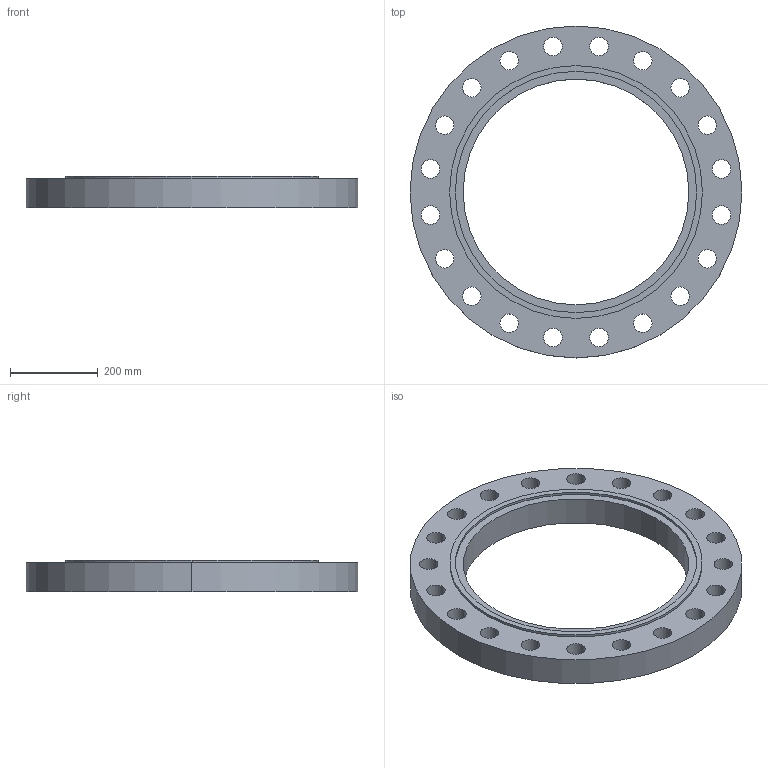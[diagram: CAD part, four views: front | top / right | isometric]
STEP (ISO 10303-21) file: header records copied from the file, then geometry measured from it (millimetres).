
FILE_DESCRIPTION (( 'STEP AP214' ), '1' );
FILE_NAME ('PN40 DN500 Type 01 - Type C Face.STEP', '2018-12-29T01:38:54', ( '' ), ( '' ), 'SwSTEP 2.0', 'SolidWorks 2019', '' );
FILE_SCHEMA (( 'AUTOMOTIVE_DESIGN' ));
Length unit declared in the file: millimetre
Products named in the file (1): PN40 DN500 Type 01 - Type C Face
Bounding box: 755 x 755 x 72 mm (x, y, z)
Volume: 14283569 mm3; surface area: 885704.9 mm2
Topology: 1 solids, 1 shells, 52 faces, 144 edges, 96 vertices
Faces by surface type: cylinder 48, plane 4
Entity records: 1842 total; most frequent: DIRECTION 346, CARTESIAN_POINT 293, ORIENTED_EDGE 288, AXIS2_PLACEMENT_3D 149, EDGE_CURVE 144, CIRCLE 96, EDGE_LOOP 96, VERTEX_POINT 96
